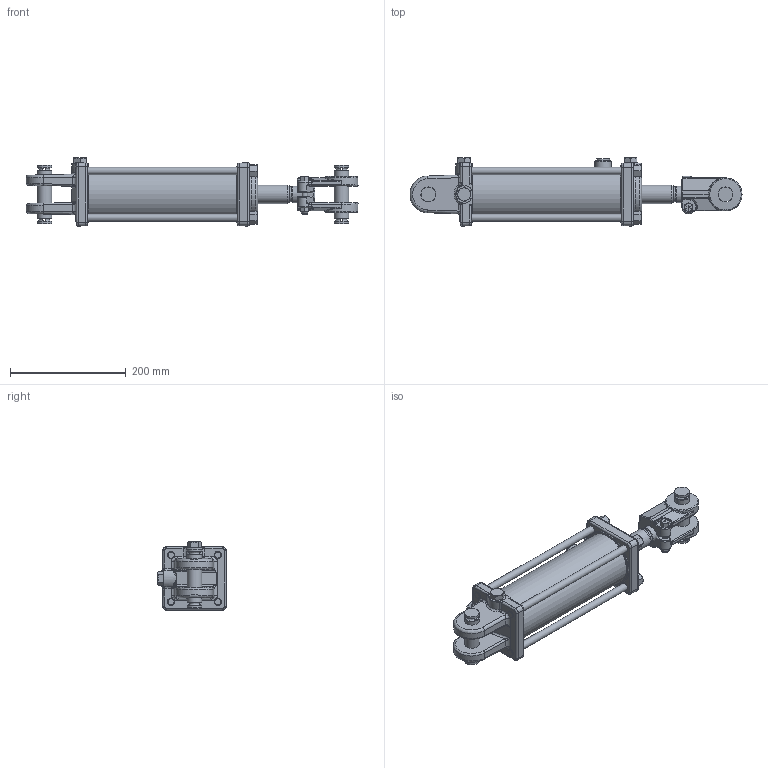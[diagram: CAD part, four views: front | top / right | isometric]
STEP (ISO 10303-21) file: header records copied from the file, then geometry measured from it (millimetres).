
FILE_DESCRIPTION((''),'2;1');
FILE_NAME('C:\Vault\Workspace\Vest\PMS-AM-2568.stp','2009-09-25T12:01:30',('newtonb'),(''),'Autodesk Inventor 2008','Autodesk Inventor 2008','');
FILE_SCHEMA(('AUTOMOTIVE_DESIGN { 1 0 10303 214 1 1 1 1 }'));
Length unit declared in the file: inch
Products named in the file (28): PMS-AM-2568V; 061600036V; 051600040V; 200300181V; 141600002V; 081600038V; 081600039V; 210600293V; 010600382V; 100000423V; 100000422V; 170002104V; 220000203V; 071600048V; 220000209V; 240064325V; 240061234V; 240000234V; 240011097V; 240000026V; 250014125V; 240020184V; 200300104V; 200300040V; 190400004V; 170201123AV; 170201123V; 220000105V
Assembly tree (35 placements, depth 3):
  PMS-AM-2568V
    061600036V
      051600040V
      200300181V
    141600002V
    081600038V
      081600039V
      210600293V
    010600382V
    100000423V
      100000422V
      170002104V
      220000203V
    071600048V
    220000209V
    240064325V
    240061234V  x2
    240000234V  x2
    240011097V
    240000026V
    250014125V
    240020184V
    200300104V
    200300040V  x3
    190400004V  x2
    170201123AV  x4
      170201123V
      220000105V
Bounding box: 574.68 x 117.97 x 117.97 mm (x, y, z)
Volume: 1970143.6 mm3; surface area: 485647.8 mm2
Topology: 34 solids, 34 shells, 927 faces, 2074 edges, 1217 vertices
Faces by surface type: plane 260, bspline 242, cylinder 228, cone 161, torus 23, sphere 13
Full cylindrical faces by diameter (mm): 1.575 x1, 2.769 x1, 5.156 x2, 5.159 x2, 9.493 x1, 10.319 x2, 12.7 x4, 16.764 x3, 19.05 x4, 22.174 x1, 22.301 x1, 22.352 x1, 25.4 x6, 25.781 x4, 25.806 x1, 28.372 x1, 28.575 x1, 31.725 x2, 31.75 x2, 32.004 x1, 32.702 x1, 33.376 x1, 34.188 x1, 34.798 x1, 35.707 x1, 35.719 x1, 37.948 x1, 38.964 x1, 40.323 x1, 40.488 x1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
Entity records: 34184 total; most frequent: CARTESIAN_POINT 17962, DIRECTION 3099, ORIENTED_EDGE 3066, EDGE_CURVE 1533, AXIS2_PLACEMENT_3D 1326, EDGE_LOOP 1019, VERTEX_POINT 990, FACE_OUTER_BOUND 769
